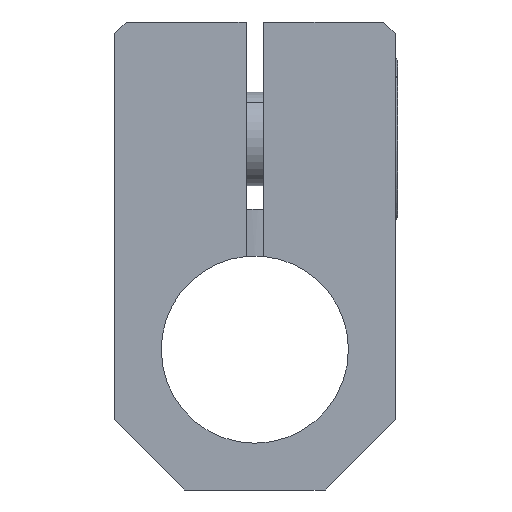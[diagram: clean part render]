
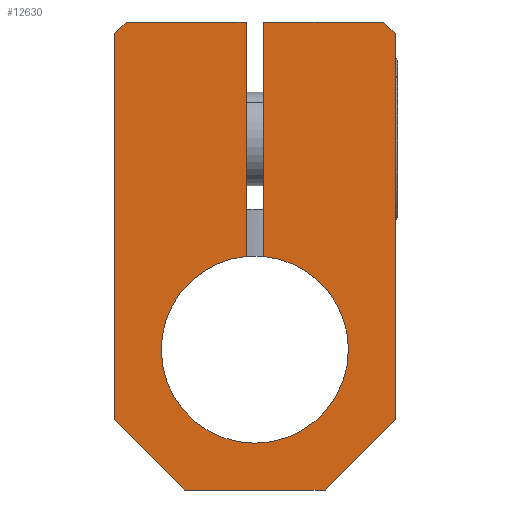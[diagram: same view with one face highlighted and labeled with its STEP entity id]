
A CAD part, left-side view. The second image highlights one B-rep face of the part: STEP entity #12630.
In plain terms, the highlighted planar face has unit normal (-1, 0, 0).
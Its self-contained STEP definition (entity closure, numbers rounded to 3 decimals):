
#292 = AXIS2_PLACEMENT_3D ( 'NONE', #22618, #12013, #1246 ) ;
#353 = DIRECTION ( 'NONE',  ( 0., -0.707, 0.707 ) ) ;
#437 = VERTEX_POINT ( 'NONE', #16396 ) ;
#511 = LINE ( 'NONE', #6674, #7727 ) ;
#544 = DIRECTION ( 'NONE',  ( 0., -1., 0. ) ) ;
#598 = CARTESIAN_POINT ( 'NONE',  ( -45.592, 18.699, -7. ) ) ;
#630 = ORIENTED_EDGE ( 'NONE', *, *, #11833, .T. ) ;
#653 = ORIENTED_EDGE ( 'NONE', *, *, #774, .T. ) ;
#724 = LINE ( 'NONE', #8171, #18179 ) ;
#774 = EDGE_CURVE ( 'NONE', #13814, #437, #724, .T. ) ;
#922 = AXIS2_PLACEMENT_3D ( 'NONE', #8628, #21127, #10463 ) ;
#1246 = DIRECTION ( 'NONE',  ( 0., 1., 0. ) ) ;
#1529 = VERTEX_POINT ( 'NONE', #4131 ) ;
#1826 = DIRECTION ( 'NONE',  ( 0., 1., 0. ) ) ;
#1976 = CIRCLE ( 'NONE', #2590, 4. ) ;
#2090 = LINE ( 'NONE', #15162, #11655 ) ;
#2099 = EDGE_CURVE ( 'NONE', #13065, #21723, #23010, .T. ) ;
#2316 = ORIENTED_EDGE ( 'NONE', *, *, #22361, .F. ) ;
#2502 = VERTEX_POINT ( 'NONE', #10751 ) ;
#2535 = LINE ( 'NONE', #18307, #7270 ) ;
#2587 = VECTOR ( 'NONE', #544, 1000. ) ;
#2590 = AXIS2_PLACEMENT_3D ( 'NONE', #8697, #21195, #10539 ) ;
#3122 = LINE ( 'NONE', #12631, #16976 ) ;
#3401 = ORIENTED_EDGE ( 'NONE', *, *, #18534, .T. ) ;
#3980 = VERTEX_POINT ( 'NONE', #7210 ) ;
#4131 = CARTESIAN_POINT ( 'NONE',  ( -45.592, 20.699, -4. ) ) ;
#4426 = DIRECTION ( 'NONE',  ( 0., 0., 1. ) ) ;
#4658 = EDGE_CURVE ( 'NONE', #11143, #16496, #2090, .T. ) ;
#5041 = ORIENTED_EDGE ( 'NONE', *, *, #19337, .T. ) ;
#5629 = VECTOR ( 'NONE', #5641, 1000. ) ;
#5641 = DIRECTION ( 'NONE',  ( 0., -0.707, -0.707 ) ) ;
#5655 = DIRECTION ( 'NONE',  ( 0., 0., 1. ) ) ;
#5851 = LINE ( 'NONE', #21072, #15503 ) ;
#6014 = VERTEX_POINT ( 'NONE', #8239 ) ;
#6674 = CARTESIAN_POINT ( 'NONE',  ( -45.592, 30.199, 10. ) ) ;
#6901 = VERTEX_POINT ( 'NONE', #10819 ) ;
#7020 = ORIENTED_EDGE ( 'NONE', *, *, #17357, .F. ) ;
#7210 = CARTESIAN_POINT ( 'NONE',  ( -45.592, 28.699, -4. ) ) ;
#7270 = VECTOR ( 'NONE', #5655, 1000. ) ;
#7712 = DIRECTION ( 'NONE',  ( 0., 0., -1. ) ) ;
#7727 = VECTOR ( 'NONE', #19138, 1000. ) ;
#7883 = FACE_OUTER_BOUND ( 'NONE', #8118, .T. ) ;
#8118 = EDGE_LOOP ( 'NONE', ( #18344, #22940, #5041, #630, #7020, #11870, #3401, #9330, #14186, #15296, #16417, #653, #20785, #2316 ) ) ;
#8171 = CARTESIAN_POINT ( 'NONE',  ( -45.592, 24.324, 0. ) ) ;
#8239 = CARTESIAN_POINT ( 'NONE',  ( -45.592, 30.199, 10. ) ) ;
#8287 = CARTESIAN_POINT ( 'NONE',  ( -45.592, 21.699, -10. ) ) ;
#8628 = CARTESIAN_POINT ( 'NONE',  ( -45.592, 18.699, -10. ) ) ;
#8697 = CARTESIAN_POINT ( 'NONE',  ( -45.592, 24.699, -4. ) ) ;
#9330 = ORIENTED_EDGE ( 'NONE', *, *, #2099, .T. ) ;
#9542 = VERTEX_POINT ( 'NONE', #22217 ) ;
#9558 = CARTESIAN_POINT ( 'NONE',  ( -45.592, 19.199, 10. ) ) ;
#9633 = CARTESIAN_POINT ( 'NONE',  ( -45.592, 24.699, -4. ) ) ;
#10401 = DIRECTION ( 'NONE',  ( 0., 0., 1. ) ) ;
#10463 = DIRECTION ( 'NONE',  ( 0., 0., 1. ) ) ;
#10539 = DIRECTION ( 'NONE',  ( 0., 1., 0. ) ) ;
#10751 = CARTESIAN_POINT ( 'NONE',  ( -45.592, 30.699, 9.5 ) ) ;
#10819 = CARTESIAN_POINT ( 'NONE',  ( -45.592, 27.699, -10. ) ) ;
#11078 = EDGE_CURVE ( 'NONE', #18173, #6901, #19976, .T. ) ;
#11111 = LINE ( 'NONE', #13497, #15368 ) ;
#11143 = VERTEX_POINT ( 'NONE', #21828 ) ;
#11449 = DIRECTION ( 'NONE',  ( 0., 1., 0. ) ) ;
#11655 = VECTOR ( 'NONE', #15267, 1000. ) ;
#11833 = EDGE_CURVE ( 'NONE', #6014, #2502, #511, .T. ) ;
#11870 = ORIENTED_EDGE ( 'NONE', *, *, #11078, .T. ) ;
#12013 = DIRECTION ( 'NONE',  ( -1., 0., 0. ) ) ;
#12063 = EDGE_CURVE ( 'NONE', #9542, #3980, #20078, .T. ) ;
#12180 = AXIS2_PLACEMENT_3D ( 'NONE', #9633, #22074, #11449 ) ;
#12630 = ADVANCED_FACE ( 'NONE', ( #7883 ), #21045, .T. ) ;
#12631 = CARTESIAN_POINT ( 'NONE',  ( -45.592, 24.699, 10. ) ) ;
#13065 = VERTEX_POINT ( 'NONE', #15918 ) ;
#13437 = EDGE_CURVE ( 'NONE', #21723, #11143, #5851, .T. ) ;
#13497 = CARTESIAN_POINT ( 'NONE',  ( -45.592, 30.699, 1.25 ) ) ;
#13636 = VECTOR ( 'NONE', #22013, 1000. ) ;
#13814 = VERTEX_POINT ( 'NONE', #14142 ) ;
#13864 = CARTESIAN_POINT ( 'NONE',  ( -45.592, 30.699, -7. ) ) ;
#14142 = CARTESIAN_POINT ( 'NONE',  ( -45.592, 24.324, 10. ) ) ;
#14186 = ORIENTED_EDGE ( 'NONE', *, *, #13437, .T. ) ;
#15162 = CARTESIAN_POINT ( 'NONE',  ( -45.592, 18.949, 9.75 ) ) ;
#15267 = DIRECTION ( 'NONE',  ( 0., 0.707, 0.707 ) ) ;
#15296 = ORIENTED_EDGE ( 'NONE', *, *, #4658, .T. ) ;
#15368 = VECTOR ( 'NONE', #4426, 1000. ) ;
#15402 = VERTEX_POINT ( 'NONE', #20057 ) ;
#15503 = VECTOR ( 'NONE', #10401, 1000. ) ;
#15918 = CARTESIAN_POINT ( 'NONE',  ( -45.592, 21.699, -10. ) ) ;
#16396 = CARTESIAN_POINT ( 'NONE',  ( -45.592, 24.324, -0.018 ) ) ;
#16417 = ORIENTED_EDGE ( 'NONE', *, *, #17946, .T. ) ;
#16496 = VERTEX_POINT ( 'NONE', #9558 ) ;
#16507 = CARTESIAN_POINT ( 'NONE',  ( -45.592, 30.699, -7. ) ) ;
#16604 = EDGE_CURVE ( 'NONE', #1529, #437, #22959, .T. ) ;
#16836 = EDGE_CURVE ( 'NONE', #9542, #15402, #2535, .T. ) ;
#16976 = VECTOR ( 'NONE', #1826, 1000. ) ;
#17357 = EDGE_CURVE ( 'NONE', #18173, #2502, #11111, .T. ) ;
#17873 = VECTOR ( 'NONE', #353, 1000. ) ;
#17946 = EDGE_CURVE ( 'NONE', #16496, #13814, #18398, .T. ) ;
#18173 = VERTEX_POINT ( 'NONE', #13864 ) ;
#18179 = VECTOR ( 'NONE', #7712, 1000. ) ;
#18307 = CARTESIAN_POINT ( 'NONE',  ( -45.592, 25.074, 0. ) ) ;
#18344 = ORIENTED_EDGE ( 'NONE', *, *, #12063, .F. ) ;
#18398 = LINE ( 'NONE', #20283, #13636 ) ;
#18534 = EDGE_CURVE ( 'NONE', #6901, #13065, #22701, .T. ) ;
#19138 = DIRECTION ( 'NONE',  ( 0., 0.707, -0.707 ) ) ;
#19337 = EDGE_CURVE ( 'NONE', #15402, #6014, #3122, .T. ) ;
#19976 = LINE ( 'NONE', #16507, #5629 ) ;
#20057 = CARTESIAN_POINT ( 'NONE',  ( -45.592, 25.074, 10. ) ) ;
#20078 = CIRCLE ( 'NONE', #12180, 4. ) ;
#20189 = CARTESIAN_POINT ( 'NONE',  ( -45.592, 24.699, -10. ) ) ;
#20283 = CARTESIAN_POINT ( 'NONE',  ( -45.592, 24.699, 10. ) ) ;
#20785 = ORIENTED_EDGE ( 'NONE', *, *, #16604, .F. ) ;
#21045 = PLANE ( 'NONE',  #922 ) ;
#21072 = CARTESIAN_POINT ( 'NONE',  ( -45.592, 18.699, 0. ) ) ;
#21127 = DIRECTION ( 'NONE',  ( -1., 0., 0. ) ) ;
#21195 = DIRECTION ( 'NONE',  ( -1., 0., 0. ) ) ;
#21723 = VERTEX_POINT ( 'NONE', #598 ) ;
#21828 = CARTESIAN_POINT ( 'NONE',  ( -45.592, 18.699, 9.5 ) ) ;
#22013 = DIRECTION ( 'NONE',  ( 0., 1., 0. ) ) ;
#22074 = DIRECTION ( 'NONE',  ( -1., 0., 0. ) ) ;
#22217 = CARTESIAN_POINT ( 'NONE',  ( -45.592, 25.074, -0.018 ) ) ;
#22361 = EDGE_CURVE ( 'NONE', #3980, #1529, #1976, .T. ) ;
#22618 = CARTESIAN_POINT ( 'NONE',  ( -45.592, 24.699, -4. ) ) ;
#22701 = LINE ( 'NONE', #20189, #2587 ) ;
#22940 = ORIENTED_EDGE ( 'NONE', *, *, #16836, .T. ) ;
#22959 = CIRCLE ( 'NONE', #292, 4. ) ;
#23010 = LINE ( 'NONE', #8287, #17873 ) ;
